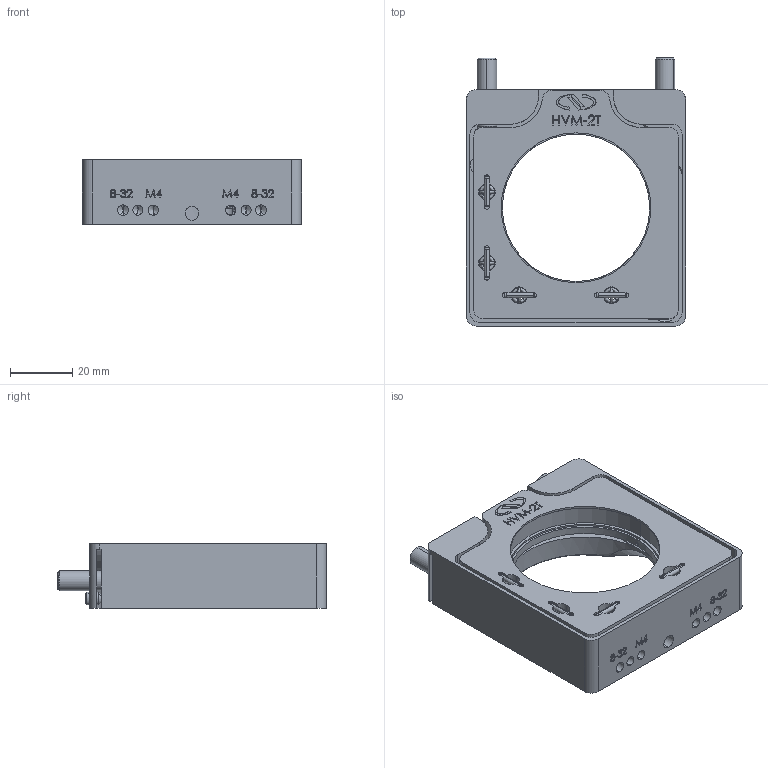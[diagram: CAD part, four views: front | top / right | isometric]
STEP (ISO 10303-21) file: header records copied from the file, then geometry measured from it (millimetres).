
FILE_DESCRIPTION((''),'2;1');
FILE_NAME('HVM-2T','2026-06-27T09:25:05',('Administrator'),(''),'CREO PARAMETRIC BY PTC INC, 2020414','CREO PARAMETRIC BY PTC INC, 2020414','');
FILE_SCHEMA(('AUTOMOTIVE_DESIGN { 1 0 10303 214 1 1 1 1 }'));
Products named in the file (1): HVM-2T
Bounding box: 70.61 x 86.43 x 20.83 mm (x, y, z)
Volume: 54917.4 mm3; surface area: 34007.1 mm2
Topology: 13 solids, 15 shells, 886 faces, 2354 edges, 1496 vertices
Faces by surface type: plane 432, cylinder 162, extrusion 94, cone 93, bspline 65, sphere 24, torus 16
Entity records: 135604 total; most frequent: CARTESIAN_POINT 107095, ORIENTED_EDGE 4584, DIRECTION 3989, PRESENTATION_STYLE_ASSIGNMENT 2330, STYLED_ITEM 2306, CURVE_STYLE 2293, EDGE_CURVE 2292, VERTEX_POINT 1496
